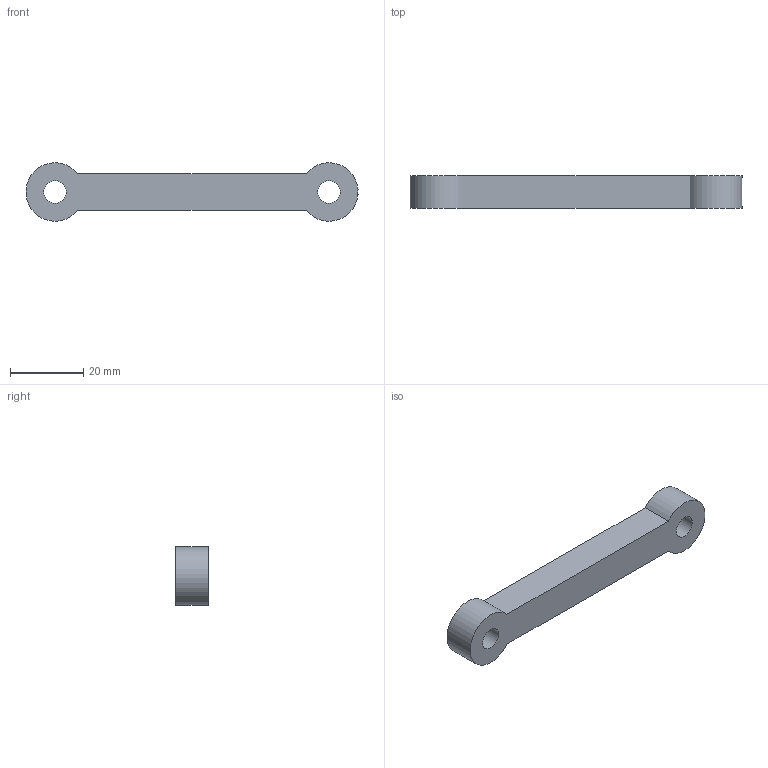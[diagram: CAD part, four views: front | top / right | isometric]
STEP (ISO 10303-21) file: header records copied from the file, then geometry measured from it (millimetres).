
FILE_DESCRIPTION(('Open CASCADE Model'),'2;1');
FILE_NAME('Open CASCADE Shape Model','2026-10-15T19:48:37',('Author'),( 'Open CASCADE'),'Open CASCADE STEP processor 7.9','Open CASCADE 7.9' ,'Unknown');
FILE_SCHEMA(('AUTOMOTIVE_DESIGN { 1 0 10303 214 1 1 1 1 }'));
Length unit declared in the file: millimetre
Products named in the file (1): Open CASCADE STEP translator 7.9 7
Bounding box: 90.94 x 9 x 15.98 mm (x, y, z)
Volume: 8485.9 mm3; surface area: 4071.9 mm2
Topology: 1 solids, 1 shells, 8 faces, 18 edges, 12 vertices
Faces by surface type: plane 4, cylinder 4
Full cylindrical faces by diameter (mm): 6.2 x2
Entity records: 489 total; most frequent: CARTESIAN_POINT 113, DIRECTION 67, ORIENTED_EDGE 36, PCURVE 36, DEFINITIONAL_REPRESENTATION 36, LINE 30, VECTOR 30, EDGE_CURVE 18
